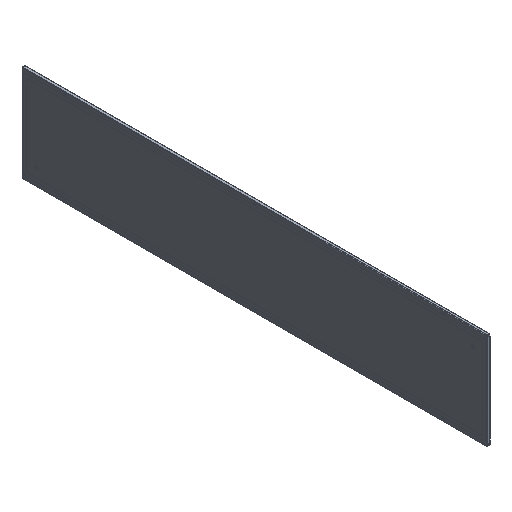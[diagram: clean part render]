
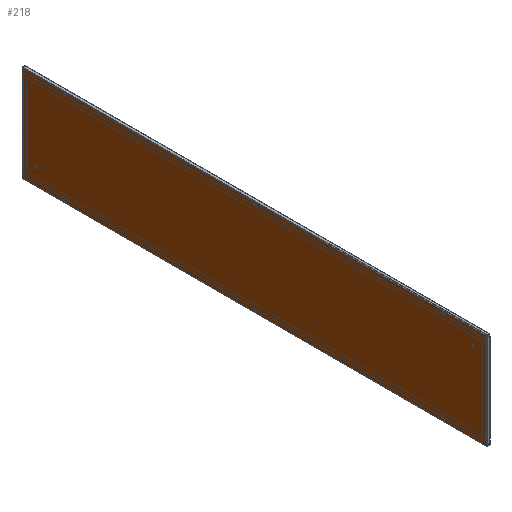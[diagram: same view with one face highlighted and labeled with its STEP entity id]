
A CAD part, isometric view. The second image highlights one B-rep face of the part: STEP entity #218.
In plain terms, the highlighted planar face has unit normal (-1, 0, 0).
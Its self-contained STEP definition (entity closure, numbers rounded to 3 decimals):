
#218=ADVANCED_FACE('',(#1303,#1305,#1307,#1309,#1311,#1313,#1315),#1317,.F.);
#1303=FACE_BOUND('',#1304,.T.);
#1304=EDGE_LOOP('',(#2525,#2526,#2527,#2528));
#1305=FACE_BOUND('',#1306,.T.);
#1306=EDGE_LOOP('',(#2529));
#1307=FACE_BOUND('',#1308,.T.);
#1308=EDGE_LOOP('',(#2530));
#1309=FACE_BOUND('',#1310,.T.);
#1310=EDGE_LOOP('',(#2531));
#1311=FACE_BOUND('',#1312,.T.);
#1312=EDGE_LOOP('',(#2532));
#1313=FACE_BOUND('',#1314,.T.);
#1314=EDGE_LOOP('',(#2533));
#1315=FACE_BOUND('',#1316,.T.);
#1316=EDGE_LOOP('',(#2534));
#1317=PLANE('',#1318);
#1318=AXIS2_PLACEMENT_3D('',#1319,#1320,#1321);
#1319=CARTESIAN_POINT('',(0.,0.,0.));
#1320=DIRECTION('',(1.,0.,0.));
#1321=DIRECTION('',(0.,0.,-1.));
#2525=ORIENTED_EDGE('',*,*,#3029,.T.);
#2526=ORIENTED_EDGE('',*,*,#3030,.T.);
#2527=ORIENTED_EDGE('',*,*,#3031,.T.);
#2528=ORIENTED_EDGE('',*,*,#3032,.T.);
#2529=ORIENTED_EDGE('',*,*,#3014,.F.);
#2530=ORIENTED_EDGE('',*,*,#3016,.F.);
#2531=ORIENTED_EDGE('',*,*,#3018,.F.);
#2532=ORIENTED_EDGE('',*,*,#3020,.F.);
#2533=ORIENTED_EDGE('',*,*,#3022,.F.);
#2534=ORIENTED_EDGE('',*,*,#3024,.F.);
#3014=EDGE_CURVE('',#3287,#3287,#3288,.T.);
#3016=EDGE_CURVE('',#3291,#3291,#3292,.T.);
#3018=EDGE_CURVE('',#3295,#3295,#3296,.T.);
#3020=EDGE_CURVE('',#3299,#3299,#3300,.T.);
#3022=EDGE_CURVE('',#3303,#3303,#3304,.T.);
#3024=EDGE_CURVE('',#3307,#3307,#3308,.T.);
#3029=EDGE_CURVE('',#3317,#3318,#3319,.T.);
#3030=EDGE_CURVE('',#3318,#3320,#3321,.T.);
#3031=EDGE_CURVE('',#3320,#3322,#3323,.T.);
#3032=EDGE_CURVE('',#3322,#3317,#3324,.T.);
#3287=VERTEX_POINT('',#3758);
#3288=CIRCLE('',#3759,3.15);
#3291=VERTEX_POINT('',#3768);
#3292=CIRCLE('',#3769,3.15);
#3295=VERTEX_POINT('',#3778);
#3296=CIRCLE('',#3779,3.15);
#3299=VERTEX_POINT('',#3788);
#3300=CIRCLE('',#3789,3.15);
#3303=VERTEX_POINT('',#3798);
#3304=CIRCLE('',#3799,3.15);
#3307=VERTEX_POINT('',#3808);
#3308=CIRCLE('',#3809,3.15);
#3317=VERTEX_POINT('',#3829);
#3318=VERTEX_POINT('',#3830);
#3319=LINE('',#3831,#3832);
#3320=VERTEX_POINT('',#3834);
#3321=LINE('',#3835,#3836);
#3322=VERTEX_POINT('',#3838);
#3323=LINE('',#3839,#3840);
#3324=LINE('',#3842,#3843);
#3758=CARTESIAN_POINT('',(0.,-888.5,-213.35));
#3759=AXIS2_PLACEMENT_3D('',#3760,#3761,#3762);
#3760=CARTESIAN_POINT('',(0.,-888.5,-216.5));
#3761=DIRECTION('',(-1.,0.,0.));
#3762=DIRECTION('',(0.,0.,-1.));
#3768=CARTESIAN_POINT('',(0.,0.,219.65));
#3769=AXIS2_PLACEMENT_3D('',#3770,#3771,#3772);
#3770=CARTESIAN_POINT('',(0.,0.,216.5));
#3771=DIRECTION('',(-1.,0.,0.));
#3772=DIRECTION('',(0.,0.,-1.));
#3778=CARTESIAN_POINT('',(0.,0.,-213.35));
#3779=AXIS2_PLACEMENT_3D('',#3780,#3781,#3782);
#3780=CARTESIAN_POINT('',(0.,0.,-216.5));
#3781=DIRECTION('',(-1.,0.,0.));
#3782=DIRECTION('',(0.,0.,-1.));
#3788=CARTESIAN_POINT('',(0.,888.5,219.65));
#3789=AXIS2_PLACEMENT_3D('',#3790,#3791,#3792);
#3790=CARTESIAN_POINT('',(0.,888.5,216.5));
#3791=DIRECTION('',(-1.,0.,0.));
#3792=DIRECTION('',(0.,0.,-1.));
#3798=CARTESIAN_POINT('',(0.,-888.5,219.65));
#3799=AXIS2_PLACEMENT_3D('',#3800,#3801,#3802);
#3800=CARTESIAN_POINT('',(0.,-888.5,216.5));
#3801=DIRECTION('',(-1.,0.,0.));
#3802=DIRECTION('',(0.,0.,-1.));
#3808=CARTESIAN_POINT('',(0.,888.5,-213.35));
#3809=AXIS2_PLACEMENT_3D('',#3810,#3811,#3812);
#3810=CARTESIAN_POINT('',(0.,888.5,-216.5));
#3811=DIRECTION('',(-1.,0.,0.));
#3812=DIRECTION('',(0.,0.,-1.));
#3829=CARTESIAN_POINT('',(0.,1089.8,-223.3));
#3830=CARTESIAN_POINT('',(0.,-1089.8,-223.3));
#3831=CARTESIAN_POINT('',(0.,1089.8,-223.3));
#3832=VECTOR('',#3833,1.);
#3833=DIRECTION('',(0.,-1.,0.));
#3834=CARTESIAN_POINT('',(0.,-1089.8,223.3));
#3835=CARTESIAN_POINT('',(0.,-1089.8,-223.3));
#3836=VECTOR('',#3837,1.);
#3837=DIRECTION('',(0.,0.,1.));
#3838=CARTESIAN_POINT('',(0.,1089.8,223.3));
#3839=CARTESIAN_POINT('',(0.,-1089.8,223.3));
#3840=VECTOR('',#3841,1.);
#3841=DIRECTION('',(0.,1.,0.));
#3842=CARTESIAN_POINT('',(0.,1089.8,223.3));
#3843=VECTOR('',#3844,1.);
#3844=DIRECTION('',(0.,0.,-1.));
